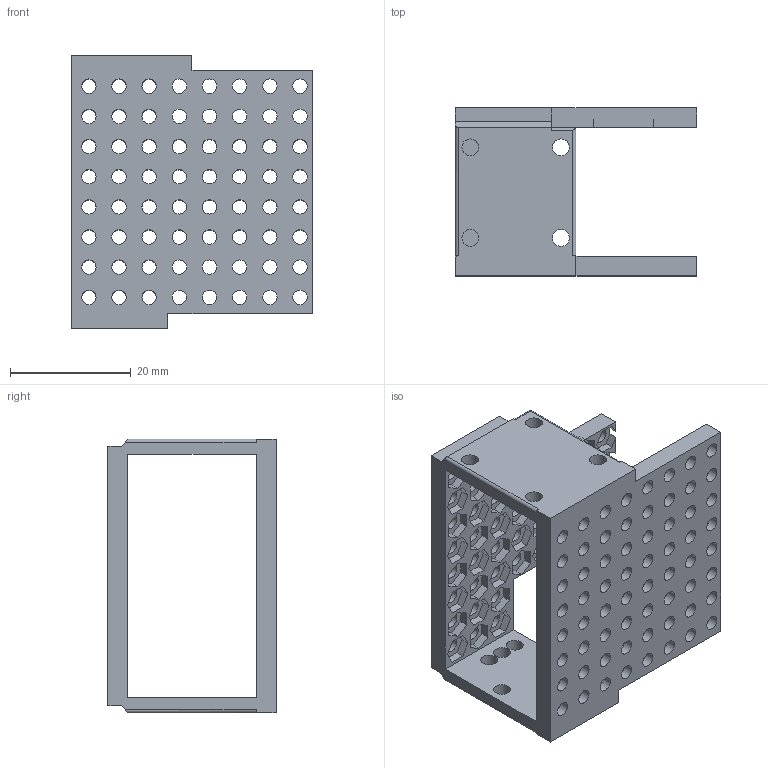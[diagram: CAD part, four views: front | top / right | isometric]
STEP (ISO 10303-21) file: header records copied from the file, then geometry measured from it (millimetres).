
FILE_DESCRIPTION(/* description */ (''),/* implementation_level */ '2;1');
FILE_NAME(/* name */ 'mrm-rd-5606hb-300HolderB v7.step',/* time_stamp */ '2025-10-09T06:01:10+02:00',/* author */ (''),/* organization */ (''),/* preprocessor_version */ 'ST-DEVELOPER v20.1',/* originating_system */ 'Autodesk Translation Framework v14.17.0.0',/* authorisation */ '');
FILE_SCHEMA (('AUTOMOTIVE_DESIGN { 1 0 10303 214 3 1 1 }'));
Length unit declared in the file: millimetre
Products named in the file (2): mrm-rd-5606hb-300HolderB; Join
Assembly tree (1 placements, depth 2):
  mrm-rd-5606hb-300HolderB
    Join
Bounding box: 40 x 27.9 x 45.4 mm (x, y, z)
Volume: 7803.1 mm3; surface area: 11426.6 mm2
Topology: 1 solids, 1 shells, 902 faces, 2411 edges, 1606 vertices
Faces by surface type: plane 777, cylinder 125
Full cylindrical faces by diameter (mm): 2.4 x108, 2.8 x10, 2.82 x1
Entity records: 28285 total; most frequent: CARTESIAN_POINT 4922, ORIENTED_EDGE 4822, DIRECTION 4470, EDGE_CURVE 2411, LINE 2162, VECTOR 2162, VERTEX_POINT 1606, EDGE_LOOP 1237
